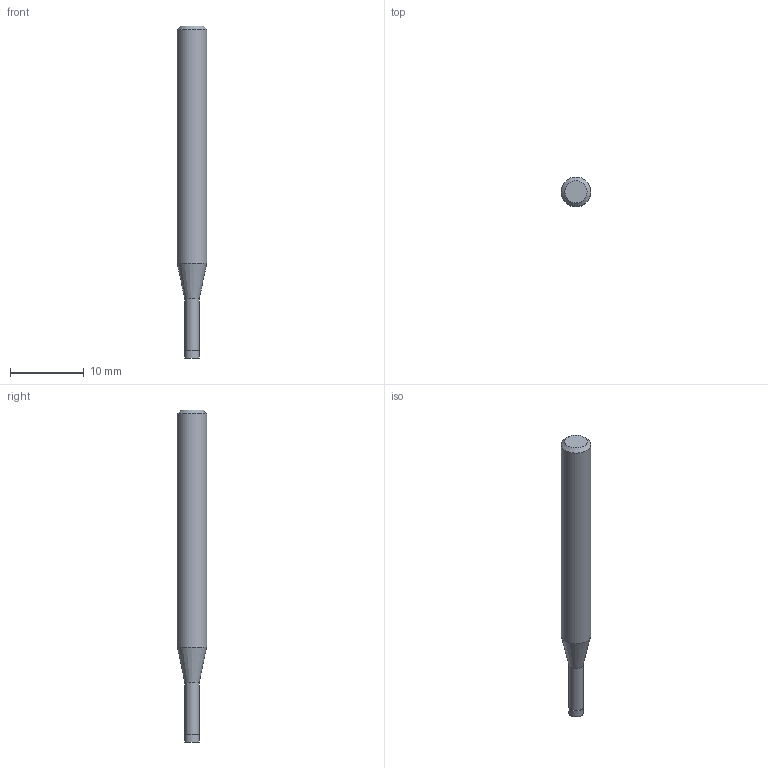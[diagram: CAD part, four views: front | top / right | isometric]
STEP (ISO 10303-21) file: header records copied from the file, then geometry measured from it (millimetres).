
FILE_DESCRIPTION((''),'2;1');
FILE_NAME('C:\Users\nsx150\AppData\Local\Temp\Mastercam 2021\CC00YWH0Y5\TEMP.step','2021-04-08T15:19:51',(''),(''),'STEP Write','Mastercam 2021 ... CNC Software, Inc.','');
FILE_SCHEMA(('AUTOMOTIVE_DESIGN'));
Length unit declared in the file: millimetre
Products named in the file (1): None
Bounding box: 4 x 4 x 45 mm (x, y, z)
Volume: 461.4 mm3; surface area: 517 mm2
Topology: 2 solids, 2 shells, 9 faces, 12 edges, 7 vertices
Faces by surface type: plane 4, cylinder 3, cone 2
Full cylindrical faces by diameter (mm): 1.94 x1, 2 x1, 4 x1
Entity records: 211 total; most frequent: DIRECTION 36, CARTESIAN_POINT 25, AXIS2_PLACEMENT_3D 18, ORIENTED_EDGE 14, EDGE_LOOP 14, STYLED_ITEM 12, ADVANCED_FACE 9, FACE_BOUND 8
